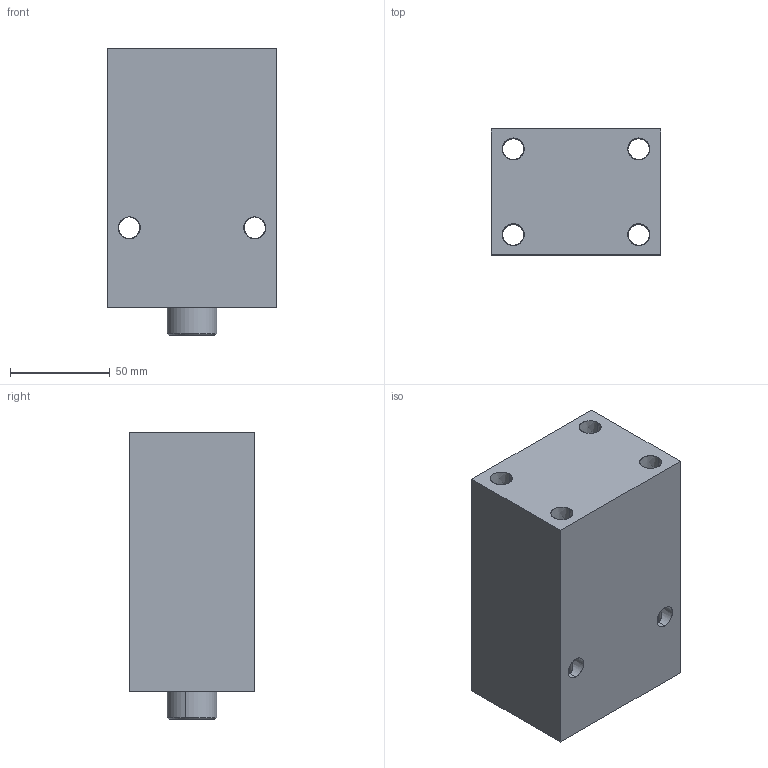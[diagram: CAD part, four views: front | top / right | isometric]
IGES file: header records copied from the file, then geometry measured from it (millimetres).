
Start section: SolidWorks IGES file using analytic representation for surfaces
Global section: file name: D:\karuppas\Clasp\3D model\Block cylinder B01C-Female thread\B01C-375F\Block cylinder_B01C-375F.IGS; native system: SolidWorks 2017; preprocessor: SolidWorks 2017; author: pc; date: 220710.000011; units: millimetre
Bounding box: 85 x 63 x 144 mm (x, y, z)
Surface area: 85098.4 mm2 (no closed solid volume)
Topology: 0 solids, 0 shells, 342 faces, 5131 edges, 5125 vertices
Faces by surface type: bspline 290, revolution 52
